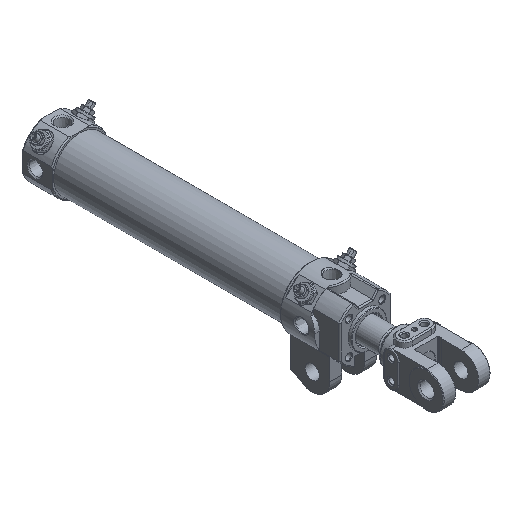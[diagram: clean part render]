
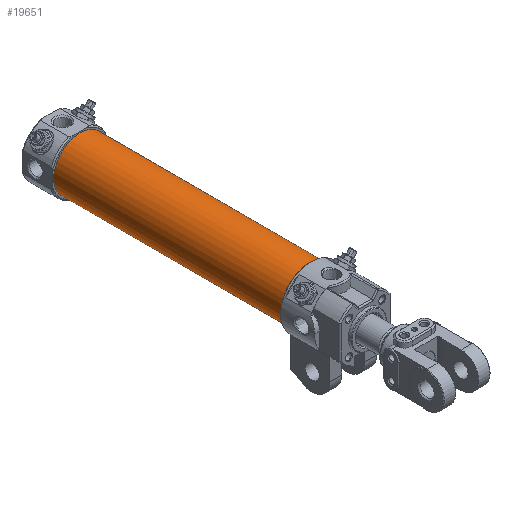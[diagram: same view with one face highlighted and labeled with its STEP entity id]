
A CAD part, isometric view. The second image highlights one B-rep face of the part: STEP entity #19651.
In plain terms, the highlighted cylindrical face has radius 22.5 mm (diameter 45 mm), a full revolution.
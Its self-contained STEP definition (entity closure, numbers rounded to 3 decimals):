
#14330=CARTESIAN_POINT('',(22.5,246.5,0.));
#14331=VERTEX_POINT('',#14330);
#14332=CARTESIAN_POINT('',(0.0,246.5,0.0));
#14333=DIRECTION('',(0.0,-1.0,0.0));
#14334=DIRECTION('',(-1.0,0.0,0.0));
#14335=AXIS2_PLACEMENT_3D('',#14332,#14333,#14334);
#14336=CIRCLE('',#14335,22.5);
#14337=EDGE_CURVE('',#14331,#14331,#14336,.T.);
#19628=CARTESIAN_POINT('',(22.5,50.5,0.));
#19629=VERTEX_POINT('',#19628);
#19630=CARTESIAN_POINT('',(0.0,50.5,0.0));
#19631=DIRECTION('',(0.0,-1.0,0.0));
#19632=DIRECTION('',(-1.0,0.0,0.0));
#19633=AXIS2_PLACEMENT_3D('',#19630,#19631,#19632);
#19634=CIRCLE('',#19633,22.5);
#19635=EDGE_CURVE('',#19629,#19629,#19634,.T.);
#19640=CARTESIAN_POINT('',(0.0,50.5,0.0));
#19641=DIRECTION('',(0.0,1.0,0.0));
#19642=DIRECTION('',(-1.0,0.0,0.0));
#19643=AXIS2_PLACEMENT_3D('',#19640,#19641,#19642);
#19644=CYLINDRICAL_SURFACE('',#19643,22.5);
#19645=ORIENTED_EDGE('',*,*,#14337,.T.);
#19646=EDGE_LOOP('',(#19645));
#19647=FACE_OUTER_BOUND('',#19646,.T.);
#19648=ORIENTED_EDGE('',*,*,#19635,.F.);
#19649=EDGE_LOOP('',(#19648));
#19650=FACE_BOUND('',#19649,.T.);
#19651=ADVANCED_FACE('',(#19647,#19650),#19644,.T.);
